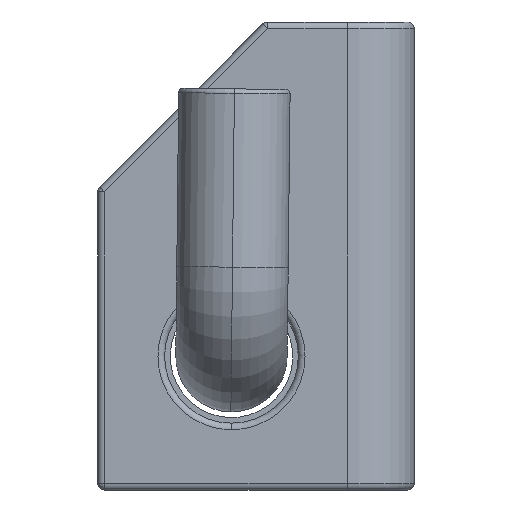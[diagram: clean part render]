
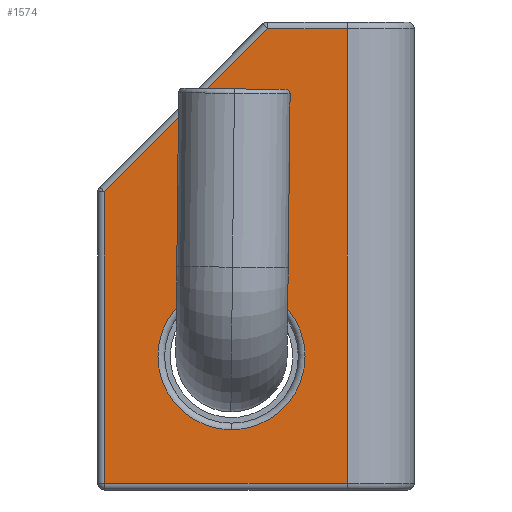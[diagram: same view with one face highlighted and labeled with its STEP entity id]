
A CAD part, left-side view. The second image highlights one B-rep face of the part: STEP entity #1574.
In plain terms, the highlighted planar face has unit normal (-1, 0, 0) as drawn and (1, 0, 0) by its records, which use the part's own axes.
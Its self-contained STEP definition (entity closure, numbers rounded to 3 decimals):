
#255 = EDGE_CURVE ( 'NONE', #1433, #693, #2494, .T. ) ;
#359 = CIRCLE ( 'NONE', #9157, 3.3 ) ;
#468 = ORIENTED_EDGE ( 'NONE', *, *, #690, .T. ) ;
#690 = EDGE_CURVE ( 'NONE', #6310, #7095, #8841, .T. ) ;
#693 = VERTEX_POINT ( 'NONE', #5542 ) ;
#978 = CARTESIAN_POINT ( 'NONE',  ( 41., 3., 21. ) ) ;
#1004 = DIRECTION ( 'NONE',  ( 0., 0., 1. ) ) ;
#1188 = VERTEX_POINT ( 'NONE', #1558 ) ;
#1227 = AXIS2_PLACEMENT_3D ( 'NONE', #9168, #7681, #7610 ) ;
#1291 = VECTOR ( 'NONE', #6723, 1000. ) ;
#1370 = ORIENTED_EDGE ( 'NONE', *, *, #5831, .T. ) ;
#1422 = DIRECTION ( 'NONE',  ( 0., 0., 1. ) ) ;
#1433 = VERTEX_POINT ( 'NONE', #6582 ) ;
#1558 = CARTESIAN_POINT ( 'NONE',  ( 41., 8.2, 11.7 ) ) ;
#1574 = ADVANCED_FACE ( 'NONE', ( #5391, #3935 ), #8814, .F. ) ;
#1999 = CARTESIAN_POINT ( 'NONE',  ( 41., 13.9, 21. ) ) ;
#2039 = CARTESIAN_POINT ( 'NONE',  ( 41., 15.138, 8.862 ) ) ;
#2494 = LINE ( 'NONE', #1999, #3946 ) ;
#2642 = DIRECTION ( 'NONE',  ( 0., 1., 0. ) ) ;
#2946 = CARTESIAN_POINT ( 'NONE',  ( 41., 3., 0.3 ) ) ;
#2983 = AXIS2_PLACEMENT_3D ( 'NONE', #5261, #8060, #1004 ) ;
#3120 = LINE ( 'NONE', #978, #6454 ) ;
#3209 = EDGE_CURVE ( 'NONE', #5009, #6310, #3120, .T. ) ;
#3217 = CARTESIAN_POINT ( 'NONE',  ( 41., 3., 20.7 ) ) ;
#3592 = VECTOR ( 'NONE', #6201, 1000. ) ;
#3672 = EDGE_CURVE ( 'NONE', #1188, #8202, #4907, .T. ) ;
#3885 = EDGE_CURVE ( 'NONE', #7095, #1433, #4814, .T. ) ;
#3935 = FACE_OUTER_BOUND ( 'NONE', #8683, .T. ) ;
#3946 = VECTOR ( 'NONE', #5577, 1000. ) ;
#3976 = ORIENTED_EDGE ( 'NONE', *, *, #7922, .T. ) ;
#4036 = CARTESIAN_POINT ( 'NONE',  ( 41., 3., 0.3 ) ) ;
#4291 = ORIENTED_EDGE ( 'NONE', *, *, #3209, .T. ) ;
#4376 = LINE ( 'NONE', #3217, #1291 ) ;
#4521 = ORIENTED_EDGE ( 'NONE', *, *, #3885, .T. ) ;
#4814 = LINE ( 'NONE', #2039, #3592 ) ;
#4907 = CIRCLE ( 'NONE', #1227, 3.3 ) ;
#5009 = VERTEX_POINT ( 'NONE', #6462 ) ;
#5261 = CARTESIAN_POINT ( 'NONE',  ( 41., 3., 21. ) ) ;
#5391 = FACE_BOUND ( 'NONE', #6499, .T. ) ;
#5542 = CARTESIAN_POINT ( 'NONE',  ( 41., 13.9, 20.7 ) ) ;
#5577 = DIRECTION ( 'NONE',  ( 0., 0., 1. ) ) ;
#5617 = CARTESIAN_POINT ( 'NONE',  ( 41., 8.2, 15. ) ) ;
#5831 = EDGE_CURVE ( 'NONE', #8202, #1188, #359, .T. ) ;
#6201 = DIRECTION ( 'NONE',  ( 0., 0.707, 0.707 ) ) ;
#6310 = VERTEX_POINT ( 'NONE', #2946 ) ;
#6327 = DIRECTION ( 'NONE',  ( -1., 0., 0. ) ) ;
#6454 = VECTOR ( 'NONE', #6581, 1000. ) ;
#6462 = CARTESIAN_POINT ( 'NONE',  ( 41., 3., 20.7 ) ) ;
#6499 = EDGE_LOOP ( 'NONE', ( #1370, #6992 ) ) ;
#6581 = DIRECTION ( 'NONE',  ( 0., 0., -1. ) ) ;
#6582 = CARTESIAN_POINT ( 'NONE',  ( 41., 13.9, 7.624 ) ) ;
#6723 = DIRECTION ( 'NONE',  ( 0., -1., 0. ) ) ;
#6958 = VECTOR ( 'NONE', #2642, 1000. ) ;
#6992 = ORIENTED_EDGE ( 'NONE', *, *, #3672, .T. ) ;
#7065 = CARTESIAN_POINT ( 'NONE',  ( 41., 6.576, 0.3 ) ) ;
#7095 = VERTEX_POINT ( 'NONE', #7065 ) ;
#7610 = DIRECTION ( 'NONE',  ( 0., 0., 1. ) ) ;
#7681 = DIRECTION ( 'NONE',  ( -1., 0., 0. ) ) ;
#7922 = EDGE_CURVE ( 'NONE', #693, #5009, #4376, .T. ) ;
#8060 = DIRECTION ( 'NONE',  ( -1., 0., 0. ) ) ;
#8063 = ORIENTED_EDGE ( 'NONE', *, *, #255, .T. ) ;
#8202 = VERTEX_POINT ( 'NONE', #8600 ) ;
#8600 = CARTESIAN_POINT ( 'NONE',  ( 41., 8.2, 18.3 ) ) ;
#8683 = EDGE_LOOP ( 'NONE', ( #8063, #3976, #4291, #468, #4521 ) ) ;
#8814 = PLANE ( 'NONE',  #2983 ) ;
#8841 = LINE ( 'NONE', #4036, #6958 ) ;
#9157 = AXIS2_PLACEMENT_3D ( 'NONE', #5617, #6327, #1422 ) ;
#9168 = CARTESIAN_POINT ( 'NONE',  ( 41., 8.2, 15. ) ) ;
